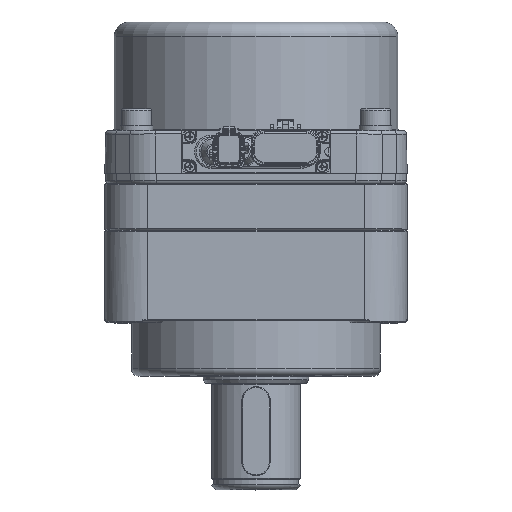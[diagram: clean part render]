
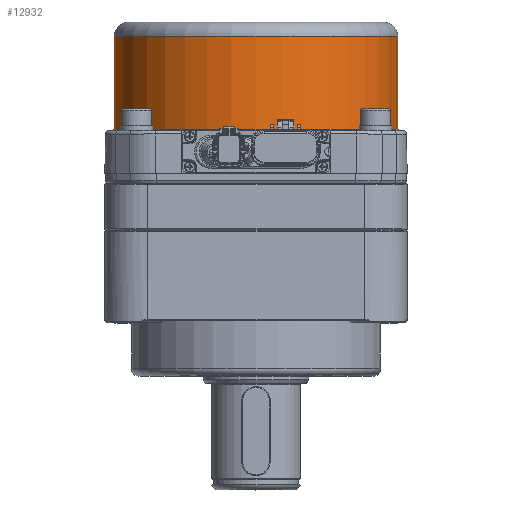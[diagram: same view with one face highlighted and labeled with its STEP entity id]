
A CAD part, top view. The second image highlights one B-rep face of the part: STEP entity #12932.
In plain terms, the highlighted cylindrical face has radius 39.9 mm (diameter 79.8 mm), a full revolution.
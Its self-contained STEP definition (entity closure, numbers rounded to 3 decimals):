
#11327=CYLINDRICAL_SURFACE('',#38905,39.9);
#12932=ADVANCED_FACE('',(#14520,#14521),#11327,.T.);
#14520=FACE_BOUND('',#15945,.T.);
#14521=FACE_BOUND('',#15946,.T.);
#15945=EDGE_LOOP('',(#22445));
#15946=EDGE_LOOP('',(#22446));
#16871=CIRCLE('',#37215,39.9);
#17705=CIRCLE('',#38886,39.9);
#22445=ORIENTED_EDGE('',*,*,#28208,.T.);
#22446=ORIENTED_EDGE('',*,*,#30179,.T.);
#25765=VERTEX_POINT('',#48384);
#26968=VERTEX_POINT('',#53779);
#28208=EDGE_CURVE('',#25765,#25765,#16871,.T.);
#30179=EDGE_CURVE('',#26968,#26968,#17705,.T.);
#37215=AXIS2_PLACEMENT_3D('',#48383,#40541,#40542);
#38886=AXIS2_PLACEMENT_3D('',#53778,#44849,#44850);
#38905=AXIS2_PLACEMENT_3D('',#53807,#44891,#44892);
#40541=DIRECTION('',(0.,-1.,0.));
#40542=DIRECTION('',(0.,0.,1.));
#44849=DIRECTION('',(0.,1.,0.));
#44850=DIRECTION('',(0.,0.,-1.));
#44891=DIRECTION('',(0.,1.,0.));
#44892=DIRECTION('',(0.,0.,-1.));
#48383=CARTESIAN_POINT('',(0.,80.5,0.));
#48384=CARTESIAN_POINT('',(0.,80.5,39.9));
#53778=CARTESIAN_POINT('',(0.,54.4,0.));
#53779=CARTESIAN_POINT('',(0.,54.4,-39.9));
#53807=CARTESIAN_POINT('',(0.,54.,0.));
